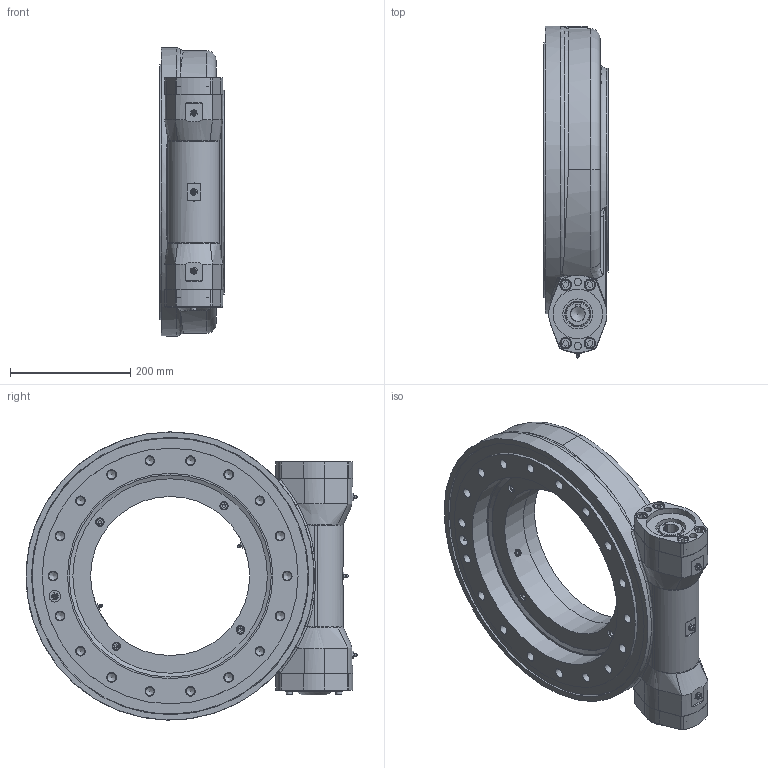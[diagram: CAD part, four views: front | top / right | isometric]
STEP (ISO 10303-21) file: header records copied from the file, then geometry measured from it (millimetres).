
FILE_DESCRIPTION (( 'STEP AP214' ), '1' );
FILE_NAME ('FWA14-86M-25H-R-REV.A.STEP', '2022-08-25T05:30:41', ( '' ), ( '' ), 'SwSTEP 2.0', 'SolidWorks 2018', '' );
FILE_SCHEMA (( 'AUTOMOTIVE_DESIGN' ));
Length unit declared in the file: millimetre
Products named in the file (1): FWA14-86M-25H-R-REV.A
Bounding box: 108 x 552.76 x 479.99 mm (x, y, z)
Volume: 9577506.1 mm3; surface area: 1526522.9 mm2
Topology: 19 solids, 19 shells, 906 faces, 1979 edges, 1267 vertices
Faces by surface type: plane 381, cylinder 311, cone 101, bspline 56, torus 49, sphere 8
Full cylindrical faces by diameter (mm): 5 x2, 6 x2, 7 x8, 8 x7, 9 x4, 9.093 x1, 10 x8, 10.084 x3, 10.2 x8, 12 x10, 13 x12, 14 x45, 16 x41, 18 x31, 19 x1, 19.5 x8, 24 x1, 25.4 x1, 35 x1, 40 x4, 41.908 x2, 47 x2, 50 x4, 57 x1, 66 x1, 68.5 x2, 75 x2, 80 x4, 82.55 x1, 82.8 x2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
Entity records: 38502 total; most frequent: CARTESIAN_POINT 10515, DIRECTION 3734, ORIENTED_EDGE 2950, AXIS2_PLACEMENT_3D 1591, EDGE_LOOP 1535, EDGE_CURVE 1475, FACE_OUTER_BOUND 1185, VERTEX_POINT 1152
